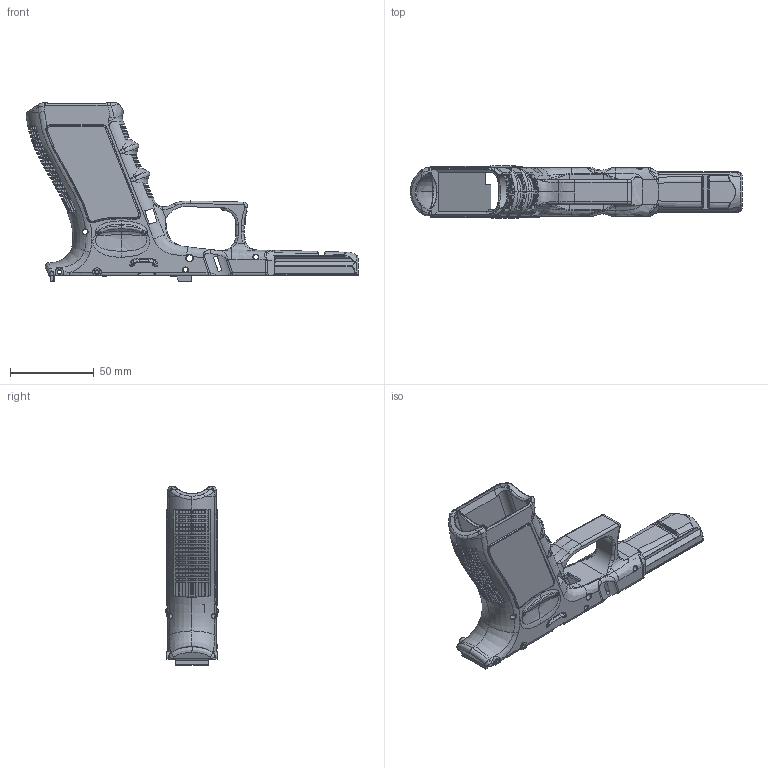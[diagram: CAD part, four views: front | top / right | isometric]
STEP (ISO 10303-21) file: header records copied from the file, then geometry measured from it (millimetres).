
FILE_DESCRIPTION(/* description */ (''),/* implementation_level */ '2;1');
FILE_NAME(/* name */ 'C:/Users/x/sync_windows/full_mod10_kill_embellish3_reset_hx v1.step',/* time_stamp */ '2020-01-08T14:39:54-08:00',/* author */ (''),/* organization */ (''),/* preprocessor_version */ 'ST-DEVELOPER v18',/* originating_system */ 'Autodesk Translation Framework v8.12.0.6',/* authorisation */ '');
FILE_SCHEMA (('AUTOMOTIVE_DESIGN { 1 0 10303 214 3 1 1 }'));
Products named in the file (2): full_mod10_kill_embellish3_reset_hx; mod10
Assembly tree (1 placements, depth 2):
  full_mod10_kill_embellish3_reset_hx
    mod10
Bounding box: 197.79 x 31.4 x 106.5 mm (x, y, z)
Volume: 80453.3 mm3; surface area: 51556.5 mm2
Topology: 1 solids, 1 shells, 2421 faces, 7017 edges, 4575 vertices
Faces by surface type: bspline 1063, plane 863, cylinder 419, cone 35, torus 27, sphere 14
Full cylindrical faces by diameter (mm): 2.25 x4, 2.3 x4, 3 x6, 4 x2
Entity records: 185921 total; most frequent: CARTESIAN_POINT 128411, ORIENTED_EDGE 13998, DIRECTION 9786, EDGE_CURVE 6999, VERTEX_POINT 4575, AXIS2_PLACEMENT_3D 3549, LINE 2688, VECTOR 2688
